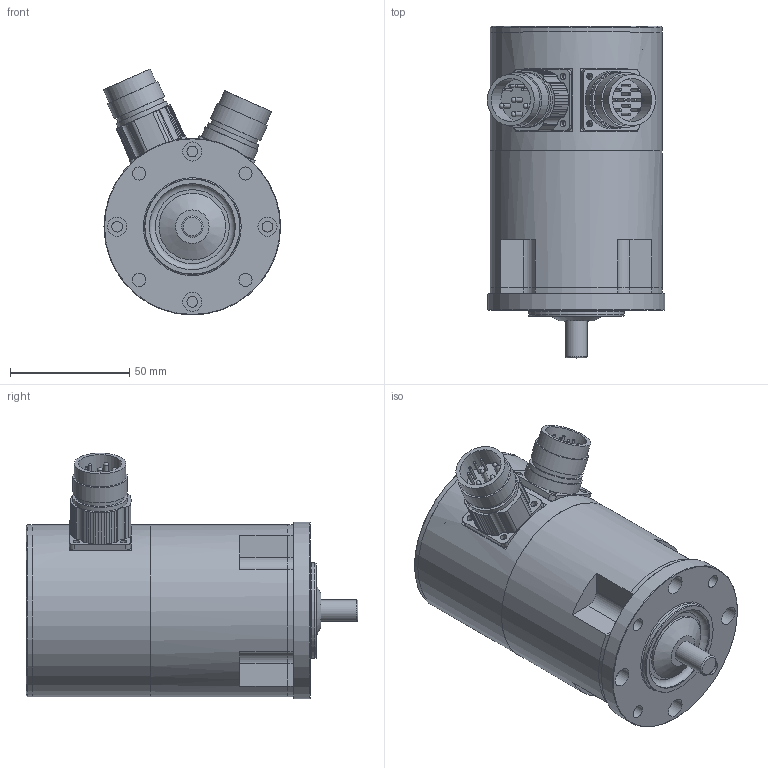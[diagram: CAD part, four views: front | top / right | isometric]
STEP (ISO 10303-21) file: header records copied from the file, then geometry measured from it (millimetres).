
FILE_DESCRIPTION(/* description */ (''),/* implementation_level */ '2;1');
FILE_NAME(/* name */ 'ksy_162e_r4',/* time_stamp */ '2007-03-16T12:38:43+01:00',/* author */ (''),/* organization */ (''),/* preprocessor_version */ 'ST-DEVELOPER v8',/* originating_system */ 'UNIGRAPHICS SOLUTIONS - UNIGRAPHICS 18.0',/* authorisation */ '');
FILE_SCHEMA (('AUTOMOTIVE_DESIGN { 1 2 10303 214 0 1 1 1 }'));
Length unit declared in the file: millimetre
Products named in the file (10): 06330401_0; DIN3760_org_A10x24x7_0; 014261_0; 014260_0; 064269_0; 111015_0; Rotor_SY 16.. E_0; Gehaeuse_SY 16.. E_0; 111014_0; KSY164_E-R4_0
Assembly tree (9 placements, depth 2):
  KSY164_E-R4_0
    111014_0
    Gehaeuse_SY 16.. E_0
    Rotor_SY 16.. E_0
    111015_0
    064269_0
    014260_0
    014261_0
    DIN3760_org_A10x24x7_0
    06330401_0
Bounding box: 74.28 x 139 x 103.04 mm (x, y, z)
Volume: 289614 mm3; surface area: 96156.7 mm2
Topology: 9 solids, 9 shells, 406 faces, 1019 edges, 655 vertices
Faces by surface type: cylinder 208, plane 113, cone 51, sphere 20, torus 14
Full cylindrical faces by diameter (mm): 1 x16, 2 x4, 2.135 x8, 2.459 x7, 2.7 x8, 3.4 x3, 3.5 x4, 4.5 x8, 5.5 x4, 6 x7, 8 x8, 8.52 x1, 8.95 x1, 9 x1, 10 x2, 10.3 x1, 18 x2, 20 x5, 21 x3, 21.5 x2, 22.5 x1, 23 x4, 24 x3, 26 x2, 28 x1, 36 x1, 40 x1, 44 x1, 49.3 x1, 51 x3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
Entity records: 10756 total; most frequent: DIRECTION 2004, CARTESIAN_POINT 1746, ORIENTED_EDGE 1378, AXIS2_PLACEMENT_3D 908, EDGE_LOOP 728, EDGE_CURVE 689, VERTEX_POINT 568, CIRCLE 491
